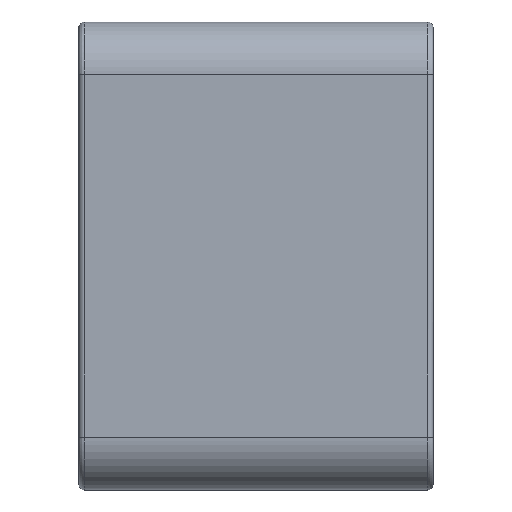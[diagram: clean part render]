
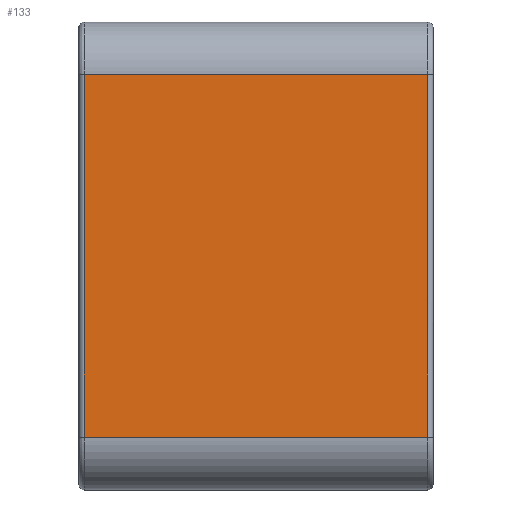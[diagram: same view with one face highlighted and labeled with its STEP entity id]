
A CAD part, top view. The second image highlights one B-rep face of the part: STEP entity #133.
In plain terms, the highlighted planar face has unit normal (0, 0, 1).
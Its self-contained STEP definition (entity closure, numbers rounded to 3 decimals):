
#133=ADVANCED_FACE('',(#205),#1204,.T.);
#205=FACE_OUTER_BOUND('',#277,.T.);
#277=EDGE_LOOP('',(#405,#406,#407,#408));
#405=ORIENTED_EDGE('',*,*,#730,.F.);
#406=ORIENTED_EDGE('',*,*,#733,.T.);
#407=ORIENTED_EDGE('',*,*,#750,.T.);
#408=ORIENTED_EDGE('',*,*,#734,.F.);
#730=EDGE_CURVE('',#1106,#1107,#888,.T.);
#733=EDGE_CURVE('',#1106,#1103,#940,.T.);
#734=EDGE_CURVE('',#1107,#1102,#941,.T.);
#750=EDGE_CURVE('',#1103,#1102,#897,.T.);
#888=B_SPLINE_CURVE_WITH_KNOTS('',1,(#2093,#2094),.UNSPECIFIED.,.F.,.F.,
(2,2),(10.,740.),.UNSPECIFIED.);
#897=B_SPLINE_CURVE_WITH_KNOTS('',1,(#2176,#2177),.UNSPECIFIED.,.F.,.F.,
(2,2),(-730.,0.),.UNSPECIFIED.);
#940=(
BOUNDED_CURVE()
B_SPLINE_CURVE(1,(#2101,#2102),.UNSPECIFIED.,.F.,.F.)
B_SPLINE_CURVE_WITH_KNOTS((2,2),(0.,685.341),
 .UNSPECIFIED.)
CURVE()
GEOMETRIC_REPRESENTATION_ITEM()
RATIONAL_B_SPLINE_CURVE((1.,1.))
REPRESENTATION_ITEM('')
);
#941=(
BOUNDED_CURVE()
B_SPLINE_CURVE(1,(#2103,#2104),.UNSPECIFIED.,.F.,.F.)
B_SPLINE_CURVE_WITH_KNOTS((2,2),(0.,685.341),
 .UNSPECIFIED.)
CURVE()
GEOMETRIC_REPRESENTATION_ITEM()
RATIONAL_B_SPLINE_CURVE((1.,1.))
REPRESENTATION_ITEM('')
);
#1102=VERTEX_POINT('',#1937);
#1103=VERTEX_POINT('',#1938);
#1106=VERTEX_POINT('',#1941);
#1107=VERTEX_POINT('',#1942);
#1204=PLANE('',#1290);
#1290=AXIS2_PLACEMENT_3D('',#1699,#1309,$);
#1309=DIRECTION('',(0.,0.,1.));
#1699=CARTESIAN_POINT('',(10.,342.671,424.));
#1937=CARTESIAN_POINT('',(660.,-342.671,424.));
#1938=CARTESIAN_POINT('',(10.,-342.671,424.));
#1941=CARTESIAN_POINT('',(10.,342.671,424.));
#1942=CARTESIAN_POINT('',(660.,342.671,424.));
#2093=CARTESIAN_POINT('',(10.,342.671,424.));
#2094=CARTESIAN_POINT('',(660.,342.671,424.));
#2101=CARTESIAN_POINT('',(10.,342.671,424.));
#2102=CARTESIAN_POINT('',(10.,-342.671,424.));
#2103=CARTESIAN_POINT('',(660.,342.671,424.));
#2104=CARTESIAN_POINT('',(660.,-342.671,424.));
#2176=CARTESIAN_POINT('',(10.,-342.671,424.));
#2177=CARTESIAN_POINT('',(660.,-342.671,424.));
